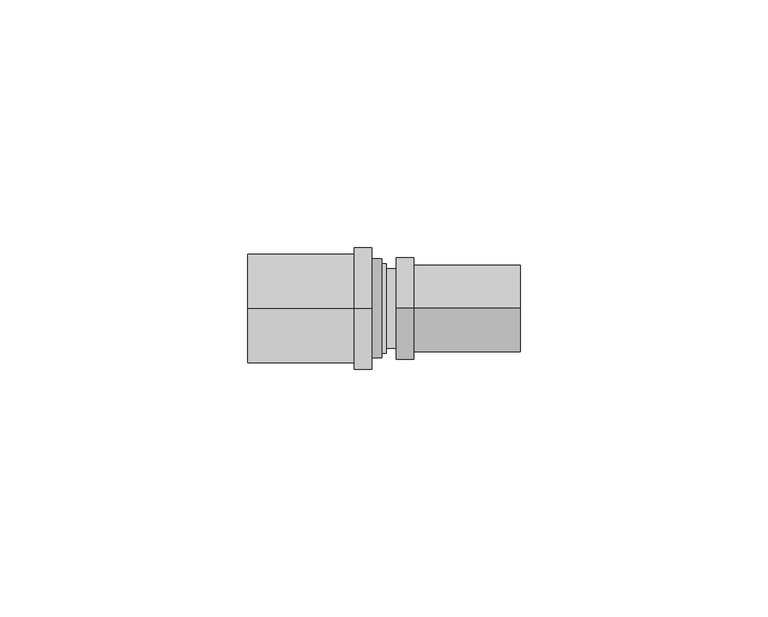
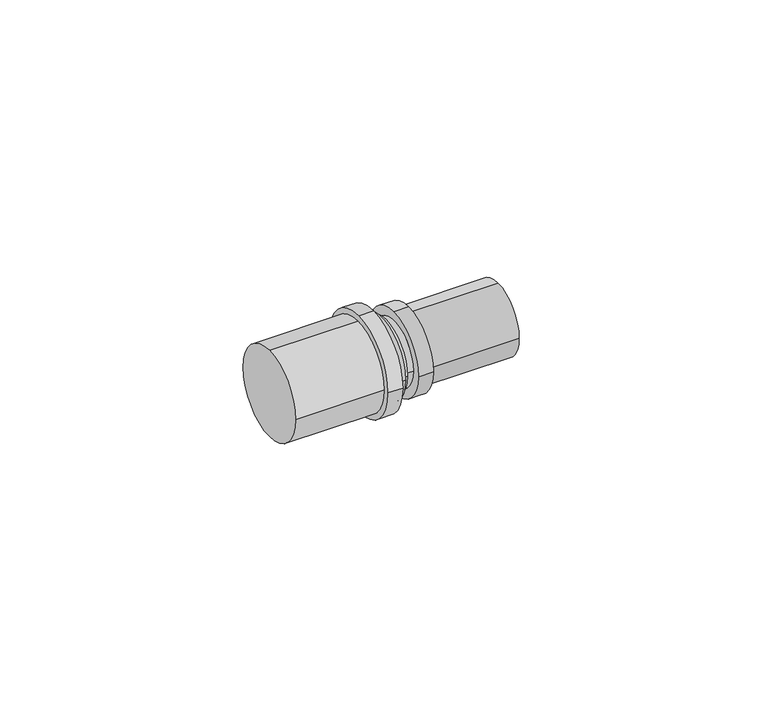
"""IFC4 building model written with IfcOpenShell, lengths in millimetres: pipe fitting geometry, HC-Kształtka-ParaForma-Tweetop-PERT-Redukcja : Tweetop."""

from ifc_helpers import new_model, si_unit, point, frame, origin, origin_2d, place, context, project, spatial, circle_curve, trimmed, segment, composite_curve, outline, extrude, source, transform, mapped, element, save
from ifc_brep_helpers import plane_surface, cylinder_surface, advanced_brep


def pipe_fitting_327e5bcb(model_context):
    return source(origin(), model_context, "Body", "SolidModel", [
        advanced_brep(
        [(0.5, 8.0, 0.0), (0.5, -8.0, 0.0), (6.0, -10.25, 0.0), (6.0, 0.0, 10.25), (2.5, 0.0, 10.25), (2.5, -10.25, 0.0), (6.0, 10.25, 0.0), (6.0, 0.0, -10.25), (2.5, 0.0, -10.25), (2.5, 10.25, 0.0), (2.5, -8.0, 0.0), (2.5, 8.0, 0.0)],
        [
            (0, 1, circle_curve(frame((0.5, 0.0, 0.0), z_axis=(-1.0, 0.0, 0.0), x_axis=(0.0, 1.0000000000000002, 0.0)), 8.0)),
            (1, 0, circle_curve(frame((0.5, 0.0, 0.0), z_axis=(-1.0, 0.0, 0.0), x_axis=(0.0, 1.0000000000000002, 0.0)), 8.0)),
            (2, 3, circle_curve(frame((6.0, 0.0, 0.0), z_axis=(-1.0, 0.0, 0.0), x_axis=(0.0, 1.0000000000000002, 0.0)), 10.25)),
            (3, 4),
            (4, 5, circle_curve(frame((2.5, 0.0, 0.0), z_axis=(1.0, 0.0, 0.0), x_axis=(0.0, 1.0000000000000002, 0.0)), 10.25)),
            (5, 2),
            (6, 7, circle_curve(frame((6.0, 0.0, 0.0), z_axis=(-1.0, 0.0, 0.0), x_axis=(0.0, 1.0000000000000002, 0.0)), 10.25)),
            (7, 8),
            (8, 9, circle_curve(frame((2.5, 0.0, 0.0), z_axis=(1.0, 0.0, 0.0), x_axis=(0.0, 1.0000000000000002, 0.0)), 10.25)),
            (9, 6),
            (3, 6, circle_curve(frame((6.0, 0.0, 0.0), z_axis=(-1.0, 0.0, 0.0), x_axis=(0.0, 1.0000000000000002, 0.0)), 10.25)),
            (9, 4, circle_curve(frame((2.5, 0.0, 0.0), z_axis=(1.0, 0.0, 0.0), x_axis=(0.0, 1.0000000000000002, 0.0)), 10.25)),
            (7, 2, circle_curve(frame((6.0, 0.0, 0.0), z_axis=(-1.0, 0.0, 0.0), x_axis=(0.0, 1.0000000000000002, 0.0)), 10.25)),
            (5, 8, circle_curve(frame((2.5, 0.0, 0.0), z_axis=(1.0, 0.0, 0.0), x_axis=(0.0, 1.0000000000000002, 0.0)), 10.25)),
            (10, 11, circle_curve(frame((2.5, 0.0, 0.0), z_axis=(1.0, 0.0, 0.0), x_axis=(0.0, 1.0000000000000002, 0.0)), 8.0)),
            (11, 10, circle_curve(frame((2.5, 0.0, 0.0), z_axis=(1.0, 0.0, 0.0), x_axis=(0.0, 1.0000000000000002, 0.0)), 8.0)),
            (10, 1),
            (0, 11),
        ],
        [
            plane_surface(frame((0.5, 0.0, 0.0), z_axis=(-1.0, 0.0, 0.0), x_axis=(0.0, 0.0, 1.0))),
            cylinder_surface(frame((0.5, 0.0, 0.0), z_axis=(-1.0000000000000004, 0.0, 0.0), x_axis=(0.0, 1.0000000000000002, 0.0)), 10.25),
            plane_surface(frame((6.0, 0.0, 0.0), z_axis=(1.0, 0.0, 0.0), x_axis=(0.0, 0.0, 1.0))),
            plane_surface(frame((2.5, 0.0, 0.0), z_axis=(-1.0, 0.0, 0.0), x_axis=(0.0, 0.0, 1.0))),
            cylinder_surface(frame((0.5, 0.0, 0.0), z_axis=(1.0000000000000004, 0.0, 0.0), x_axis=(0.0, 1.0000000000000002, 0.0)), 8.0),
        ],
        [
            (0, [[1, 2]]),
            (1, [[3, 4, 5, 6]]),
            (1, [[7, 8, 9, 10]]),
            (1, [[11, -10, 12, -4]]),
            (1, [[13, -6, 14, -8]]),
            (2, [[-3, -13, -7, -11]]),
            (3, [[-5, -12, -9, -14], [15, 16]]),
            (4, [[-15, 17, -1, 18]]),
            (4, [[-16, -18, -2, -17]]),
        ],
    ),
        extrude(outline(composite_curve([segment(trimmed(circle_curve(origin_2d(), 8.75), [point((0.0, 8.75))], [point((8.75, 0.0))], False, "CARTESIAN"), True, "CONTINUOUS"), segment(trimmed(circle_curve(origin_2d(), 8.75), [point((8.75, 0.0))], [point((0.0, -8.75))], False, "CARTESIAN"), True, "CONTINUOUS"), segment(trimmed(circle_curve(origin_2d(), 8.75), [point((0.0, -8.75))], [point((-8.75, 0.0))], False, "CARTESIAN"), True, "CONTINUOUS"), segment(trimmed(circle_curve(origin_2d(), 8.75), [point((-8.75, 0.0))], [point((0.0, 8.75))], False, "CARTESIAN"), True, "CONTINUOUS")], self_intersect=False)), frame((6.0, 0.0, 0.0), z_axis=(1.0, 0.0, 0.0), x_axis=(0.0, 1.0, 0.0)), (0.0, 0.0, 1.0), 21.5),
        advanced_brep(
        [(-0.5, -10.0, 0.0), (-0.5, 10.0, 0.0), (-6.0, 12.25, 0.0), (-6.0, 0.0, 12.25), (-2.5, 0.0, 12.25), (-2.5, 12.25, 0.0), (-6.0, -12.25, 0.0), (-6.0, 0.0, -12.25), (-2.5, 0.0, -12.25), (-2.5, -12.25, 0.0), (-2.5, 10.0, 0.0), (-2.5, -10.0, 0.0)],
        [
            (0, 1, circle_curve(frame((-0.5, 0.0, 0.0), z_axis=(1.0, 0.0, 0.0), x_axis=(0.0, -1.0, 0.0)), 10.0)),
            (1, 0, circle_curve(frame((-0.5, 0.0, 0.0), z_axis=(1.0, 0.0, 0.0), x_axis=(0.0, -1.0, 0.0)), 10.0)),
            (2, 3, circle_curve(frame((-6.0, 0.0, 0.0), z_axis=(1.0, 0.0, 0.0), x_axis=(0.0, -1.0, 0.0)), 12.25)),
            (3, 4),
            (4, 5, circle_curve(frame((-2.5, 0.0, 0.0), z_axis=(-1.0, 0.0, 0.0), x_axis=(0.0, -1.0, 0.0)), 12.25)),
            (5, 2),
            (6, 7, circle_curve(frame((-6.0, 0.0, 0.0), z_axis=(1.0, 0.0, 0.0), x_axis=(0.0, -1.0, 0.0)), 12.25)),
            (7, 8),
            (8, 9, circle_curve(frame((-2.5, 0.0, 0.0), z_axis=(-1.0, 0.0, 0.0), x_axis=(0.0, -1.0, 0.0)), 12.25)),
            (9, 6),
            (3, 6, circle_curve(frame((-6.0, 0.0, 0.0), z_axis=(1.0, 0.0, 0.0), x_axis=(0.0, -1.0, 0.0)), 12.25)),
            (9, 4, circle_curve(frame((-2.5, 0.0, 0.0), z_axis=(-1.0, 0.0, 0.0), x_axis=(0.0, -1.0, 0.0)), 12.25)),
            (7, 2, circle_curve(frame((-6.0, 0.0, 0.0), z_axis=(1.0, 0.0, 0.0), x_axis=(0.0, -1.0, 0.0)), 12.25)),
            (5, 8, circle_curve(frame((-2.5, 0.0, 0.0), z_axis=(-1.0, 0.0, 0.0), x_axis=(0.0, -1.0, 0.0)), 12.25)),
            (10, 11, circle_curve(frame((-2.5, 0.0, 0.0), z_axis=(-1.0, 0.0, 0.0), x_axis=(0.0, -1.0, 0.0)), 10.0)),
            (11, 10, circle_curve(frame((-2.5, 0.0, 0.0), z_axis=(-1.0, 0.0, 0.0), x_axis=(0.0, -1.0, 0.0)), 10.0)),
            (10, 1),
            (0, 11),
        ],
        [
            plane_surface(frame((-0.5, 0.0, 0.0), z_axis=(1.0, 0.0, 0.0), x_axis=(0.0, 0.0, 1.0))),
            cylinder_surface(frame((-0.5, 0.0, 0.0), z_axis=(1.0, 0.0, 0.0), x_axis=(0.0, -1.0, 0.0)), 12.25),
            plane_surface(frame((-6.0, 0.0, 0.0), z_axis=(-1.0, 0.0, 0.0), x_axis=(0.0, 0.0, 1.0))),
            plane_surface(frame((-2.5, 0.0, 0.0), z_axis=(1.0, 0.0, 0.0), x_axis=(0.0, 0.0, 1.0))),
            cylinder_surface(frame((-0.5, 0.0, 0.0), z_axis=(-1.0, 0.0, 0.0), x_axis=(0.0, -1.0, 0.0)), 10.0),
        ],
        [
            (0, [[1, 2]]),
            (1, [[3, 4, 5, 6]]),
            (1, [[7, 8, 9, 10]]),
            (1, [[11, -10, 12, -4]]),
            (1, [[13, -6, 14, -8]]),
            (2, [[-3, -13, -7, -11]]),
            (3, [[-5, -12, -9, -14], [15, 16]]),
            (4, [[-15, 17, -1, 18]]),
            (4, [[-16, -18, -2, -17]]),
        ],
    ),
        extrude(outline(composite_curve([segment(trimmed(circle_curve(origin_2d(), 10.95), [point((0.0, 10.95))], [point((10.95, 0.0))], False, "CARTESIAN"), True, "CONTINUOUS"), segment(trimmed(circle_curve(origin_2d(), 10.95), [point((10.95, 0.0))], [point((0.0, -10.95))], False, "CARTESIAN"), True, "CONTINUOUS"), segment(trimmed(circle_curve(origin_2d(), 10.95), [point((0.0, -10.95))], [point((-10.95, 0.0))], False, "CARTESIAN"), True, "CONTINUOUS"), segment(trimmed(circle_curve(origin_2d(), 10.95), [point((-10.95, 0.0))], [point((0.0, 10.95))], False, "CARTESIAN"), True, "CONTINUOUS")], self_intersect=False)), frame((-27.5, 0.0, 0.0), z_axis=(1.0, 0.0, 0.0), x_axis=(0.0, 1.0, 0.0)), (0.0, 0.0, 1.0), 21.5),
        advanced_brep(
        [(-0.5, 7.7942286, -4.5), (-0.5, 0.0, -9.0), (-0.5, -7.7942286, -4.5), (-0.5, -9.0, 0.0), (-0.5, -7.7942286, 4.5), (-0.5, 0.0, 9.0), (-0.5, 7.7942286, 4.5), (-0.5, 9.0, 0.0), (0.5, 7.7942286, -4.5), (0.5, 9.0, 0.0), (0.5, 7.7942286, 4.5), (0.5, 0.0, 9.0), (0.5, -7.7942286, 4.5), (0.5, -9.0, 0.0), (0.5, -7.7942286, -4.5), (0.5, 0.0, -9.0)],
        [
            (0, 1, circle_curve(frame((-0.5, 0.0, 0.0), z_axis=(-1.0, 0.0, 0.0), x_axis=(0.0, 1.0, 0.0)), 9.0)),
            (1, 2, circle_curve(frame((-0.5, 0.0, 0.0), z_axis=(-1.0, 0.0, 0.0), x_axis=(0.0, 1.0, 0.0)), 9.0)),
            (2, 3, circle_curve(frame((-0.5, 0.0, 0.0), z_axis=(-1.0, 0.0, 0.0), x_axis=(0.0, 1.0, 0.0)), 9.0)),
            (3, 4, circle_curve(frame((-0.5, 0.0, 0.0), z_axis=(-1.0, 0.0, 0.0), x_axis=(0.0, 1.0, 0.0)), 9.0)),
            (4, 5, circle_curve(frame((-0.5, 0.0, 0.0), z_axis=(-1.0, 0.0, 0.0), x_axis=(0.0, 1.0, 0.0)), 9.0)),
            (5, 6, circle_curve(frame((-0.5, 0.0, 0.0), z_axis=(-1.0, 0.0, 0.0), x_axis=(0.0, 1.0, 0.0)), 9.0)),
            (6, 7, circle_curve(frame((-0.5, 0.0, 0.0), z_axis=(-1.0, 0.0, 0.0), x_axis=(0.0, 1.0, 0.0)), 9.0)),
            (7, 0, circle_curve(frame((-0.5, 0.0, 0.0), z_axis=(-1.0, 0.0, 0.0), x_axis=(0.0, 1.0, 0.0)), 9.0)),
            (8, 9, circle_curve(frame((0.5, 0.0, 0.0), z_axis=(1.0, 0.0, 0.0), x_axis=(0.0, 1.0, 0.0)), 9.0)),
            (9, 10, circle_curve(frame((0.5, 0.0, 0.0), z_axis=(1.0, 0.0, 0.0), x_axis=(0.0, 1.0, 0.0)), 9.0)),
            (10, 11, circle_curve(frame((0.5, 0.0, 0.0), z_axis=(1.0, 0.0, 0.0), x_axis=(0.0, 1.0, 0.0)), 9.0)),
            (11, 12, circle_curve(frame((0.5, 0.0, 0.0), z_axis=(1.0, 0.0, 0.0), x_axis=(0.0, 1.0, 0.0)), 9.0)),
            (12, 13, circle_curve(frame((0.5, 0.0, 0.0), z_axis=(1.0, 0.0, 0.0), x_axis=(0.0, 1.0, 0.0)), 9.0)),
            (13, 14, circle_curve(frame((0.5, 0.0, 0.0), z_axis=(1.0, 0.0, 0.0), x_axis=(0.0, 1.0, 0.0)), 9.0)),
            (14, 15, circle_curve(frame((0.5, 0.0, 0.0), z_axis=(1.0, 0.0, 0.0), x_axis=(0.0, 1.0, 0.0)), 9.0)),
            (15, 8, circle_curve(frame((0.5, 0.0, 0.0), z_axis=(1.0, 0.0, 0.0), x_axis=(0.0, 1.0, 0.0)), 9.0)),
            (7, 9),
            (13, 3),
        ],
        [
            plane_surface(frame((-0.5, 0.0, 0.0), z_axis=(-1.0, 0.0, 0.0), x_axis=(0.0, 0.0, 1.0))),
            plane_surface(frame((0.5, 0.0, 0.0), z_axis=(1.0, 0.0, 0.0), x_axis=(0.0, 0.0, 1.0))),
            cylinder_surface(frame((-0.5, 0.0, 0.0), z_axis=(1.0, 0.0, 0.0), x_axis=(0.0, 1.0, 0.0)), 9.0),
        ],
        [
            (0, [[1, 2, 3, 4, 5, 6, 7, 8]]),
            (1, [[9, 10, 11, 12, 13, 14, 15, 16]]),
            (2, [[17, -9, -16, -15, -14, 18, -3, -2, -1, -8]]),
            (2, [[-17, -7, -6, -5, -4, -18, -13, -12, -11, -10]]),
        ],
    ),
    ])


if __name__ == "__main__":
    model = new_model("IFC4")
    model_context = context("Model", 3, world=origin())
    ifc_project = project(units=[si_unit("LENGTHUNIT", "METRE", prefix="MILLI")], contexts=[model_context])
    site = spatial("IfcSite", under=ifc_project)
    building = spatial("IfcBuilding", under=site)
    placement = place(None, origin())
    pipe_fitting_shape = pipe_fitting_327e5bcb(model_context)
    element("IfcPipeFitting", 1, ObjectType="HC-Kształtka-ParaForma-Tweetop-PERT-Redukcja : Tweetop", at=placement, inside=building, context=model_context, shape_type="MappedRepresentation", body=[
        mapped(pipe_fitting_shape, transform((0.0, 0.0, 0.0), x_axis=(1.0, 0.0, 0.0), y_axis=(0.0, 1.0, 0.0), z_axis=(0.0, 0.0, 1.0))),
    ])
    save(model, "model.ifc")
